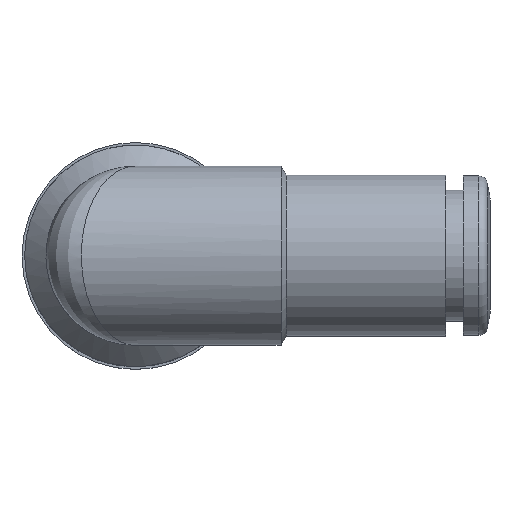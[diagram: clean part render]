
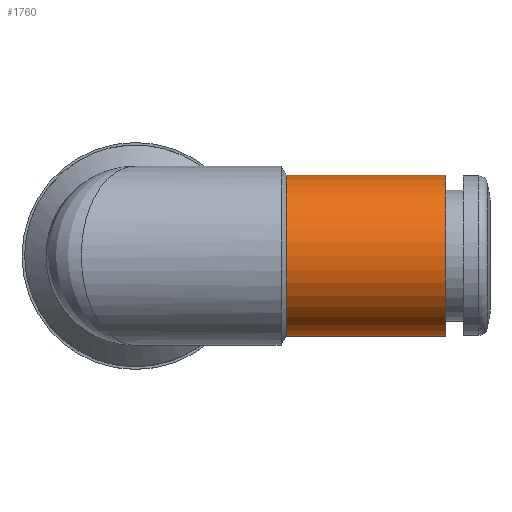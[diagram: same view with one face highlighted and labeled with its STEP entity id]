
A CAD part, top view. The second image highlights one B-rep face of the part: STEP entity #1760.
In plain terms, the highlighted cylindrical face has radius 4.55 mm (diameter 9.1 mm), a full revolution.
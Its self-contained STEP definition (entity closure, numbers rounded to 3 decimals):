
#1760=ADVANCED_FACE('', (#1770,#1780), #1790, .T.);
#4670=AXIS2_PLACEMENT_3D('Ax2Pl3d', #4680, #4690, #4700);
#5630=AXIS2_PLACEMENT_3D('Ax2Pl3d', #5640, #5650, #5660);
#5670=AXIS2_PLACEMENT_3D('Ax2Pl3d', #5680, #5690, #5700);
#4680=CARTESIAN_POINT('HicPkt', (25.248,9.497,
12.079));
#19610=CARTESIAN_POINT('', (25.248,9.497,16.629));
#5640=CARTESIAN_POINT('HicPkt', (16.248,9.497,
12.079));
#19750=CARTESIAN_POINT('', (16.248,9.497,16.629));
#5680=CARTESIAN_POINT('HicPkt', (16.248,9.497,
12.079));
#20160=CIRCLE('Circle', #4670, 4.55);
#20260=CIRCLE('Circle', #5630, 4.55);
#1790=CYLINDRICAL_SURFACE('Zyl', #5670, 4.55);
#4690=DIRECTION('Axis', (-1.,0.,0.))
;
#4700=DIRECTION('RefDirection', (0.,
0.,-1.));
#5650=DIRECTION('Axis', (-1.,0.,0.))
;
#5660=DIRECTION('RefDirection', (0.,
0.,-1.));
#5690=DIRECTION('Axis', (1.,0.,0.));
#5700=DIRECTION('RefDirection', (0.,0.,-1.));
#22720=EDGE_CURVE('', #22730, #22730, #20160, .T.);
#23100=EDGE_CURVE('', #23110, #23110, #20260, .T.);
#25070=EDGE_LOOP('Edge_loop', (#25080));
#25090=EDGE_LOOP('Edge_loop', (#25100));
#1780=FACE_BOUND('', #25090, .T.);
#1770=FACE_OUTER_BOUND('Face_outer_bound', #25070, .T.);
#25080=ORIENTED_EDGE('', *, *, #22720, .T.);
#25100=ORIENTED_EDGE('', *, *, #23100, .F.);
#22730=VERTEX_POINT('', #19610);
#23110=VERTEX_POINT('', #19750);
